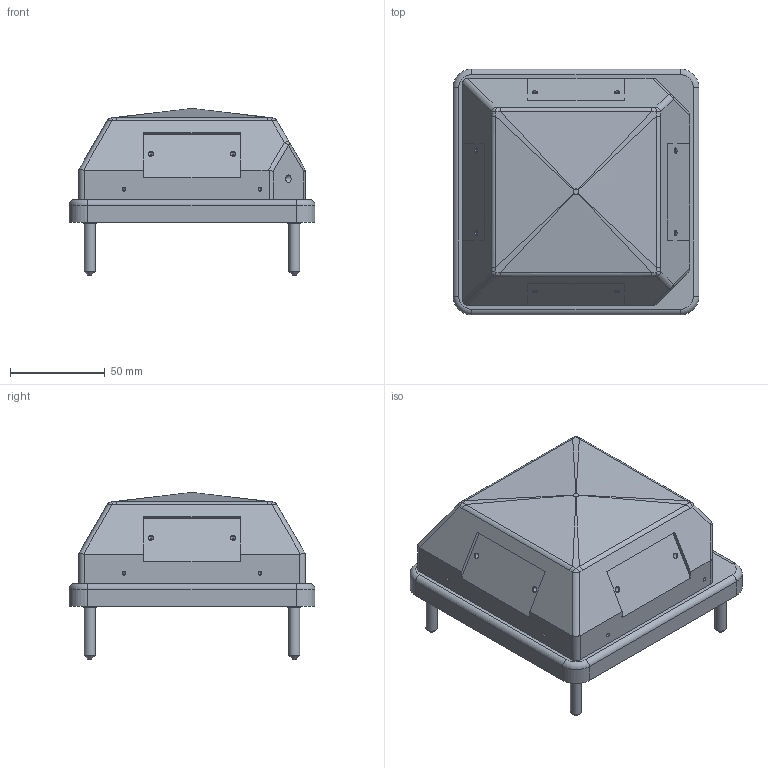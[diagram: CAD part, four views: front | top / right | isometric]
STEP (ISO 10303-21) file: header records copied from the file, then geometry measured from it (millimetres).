
FILE_DESCRIPTION(('STEP AP242'), '1');
FILE_NAME('Êîðîáêà', '', ('UNSPECIFIED'), ('UNSPECIFIED'), 'C3D Converter', 'C3D Toolkit', '');
FILE_SCHEMA(('AP242_MANAGED_MODEL_BASED_3D_ENGINEERING_MIM_LF { 1 0 10303 442 1 1 4 }'));
Length unit declared in the file: millimetre
Products named in the file (6): -01; МЛАС.301560.175; МЛАС.301544.011-01; МЛАС.301614.012
Assembly tree (8 placements, depth 3):
  -01
    -01
    МЛАС.301560.175
      МЛАС.301544.011-01
      МЛАС.301614.012  x4
    (unnamed)
Bounding box: 130 x 130 x 88 mm (x, y, z)
Volume: 429980 mm3; surface area: 135466.4 mm2
Topology: 7 solids, 7 shells, 355 faces, 856 edges, 522 vertices
Faces by surface type: plane 193, cylinder 102, cone 30, bspline 26, torus 4
Full cylindrical faces by diameter (mm): 3 x8, 3.242 x4, 4.134 x4, 5 x8, 5.5 x4, 6 x8, 8 x4
Entity records: 11868 total; most frequent: CARTESIAN_POINT 4006, DIRECTION 1528, ORIENTED_EDGE 1486, EDGE_CURVE 743, AXIS2_PLACEMENT_3D 523, VERTEX_POINT 485, LINE 482, VECTOR 482
